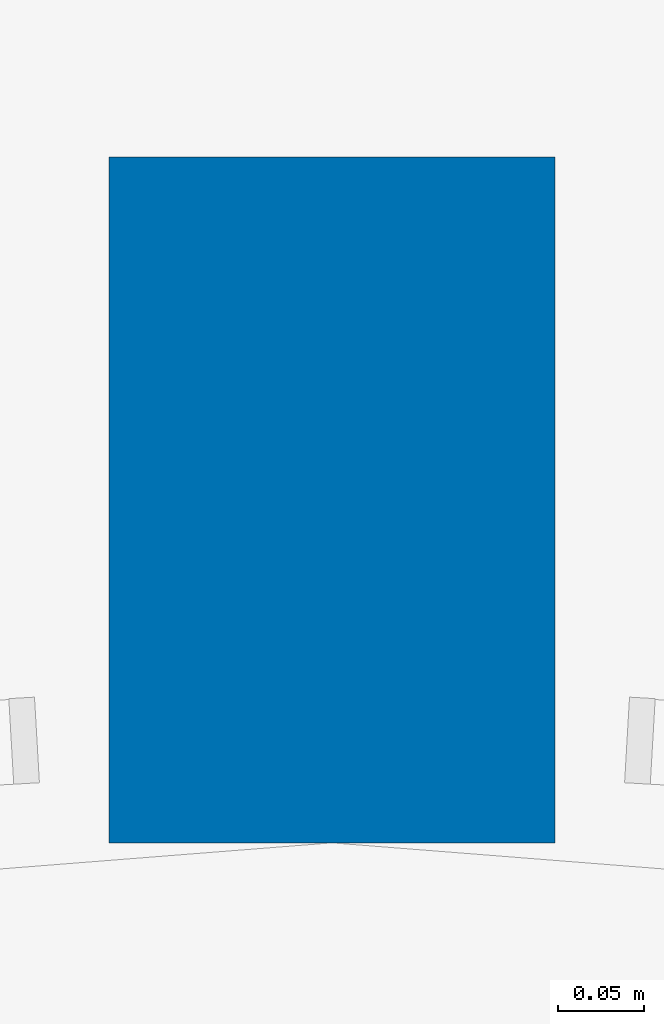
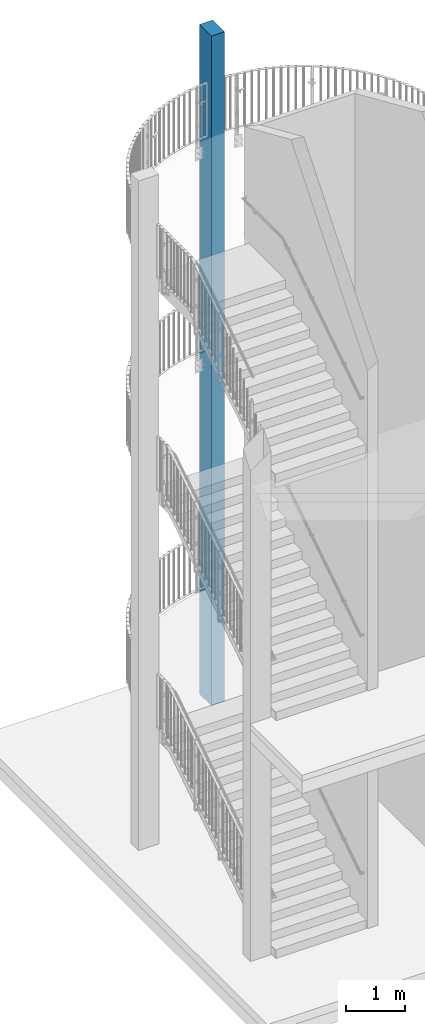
# One storey, part 74 of 296: 1 column.
"""IFC2X3 building model written with IfcOpenShell, lengths in millimetres."""

from ifc_helpers import new_model, entity, si_unit, converted_unit, frame, origin, origin_with_axes, place, context, project, spatial, polyline, outline, extrude, material, element, save


model = new_model("IFC2X3")

# Units and contexts
model_context = context("Model", 3, precision=1e-09, world=origin_with_axes())
ifc_project = project(units=[si_unit("LENGTHUNIT", "METRE", prefix="MILLI"), si_unit("AREAUNIT", "SQUARE_METRE"), si_unit("VOLUMEUNIT", "CUBIC_METRE"), converted_unit("PLANEANGLEUNIT", "DEGREE", entity("IfcPlaneAngleMeasure", 0.01745329), si_unit("PLANEANGLEUNIT", "RADIAN"), dimensions=[0, 0, 0, 0, 0, 0, 0])], contexts=[model_context])

# Site, building, storey
site_placement = place(None, origin_with_axes())
site = spatial("IfcSite", under=ifc_project, at=site_placement, Name="TZD-S?d | Treppenhausgel?nder", CompositionType="ELEMENT")
building_placement = place(site_placement, origin_with_axes())
building = spatial("IfcBuilding", under=site, at=building_placement, Name="Struktur 1", CompositionType="ELEMENT")
storey_placement = place(building_placement, origin_with_axes())
storey = spatial("IfcBuildingStorey", under=building, at=storey_placement, Name="Default Storey", CompositionType="ELEMENT", Elevation=0.0)

# Column
ifc_material = material(Name="C20/25")
column_placement = place(None, frame((2925.0, 3025.0, 0.0), z_axis=(0.0, 0.0, -1.0), x_axis=(1.0, 0.0, 0.0)))
element("IfcColumn", 1, at=column_placement, inside=storey, material=ifc_material, Name="Column", ObjectType="Column", context=model_context, shape_type="SweptSolid", body=[
    extrude(outline(polyline([(130.0, -200.0), (130.0, 200.0), (-130.0, 200.0), (-130.0, -200.0), (130.0, -200.0)])), origin(), (0.0, 0.0, -1.0), 13800.0),
])

save(model, "model.ifc")
